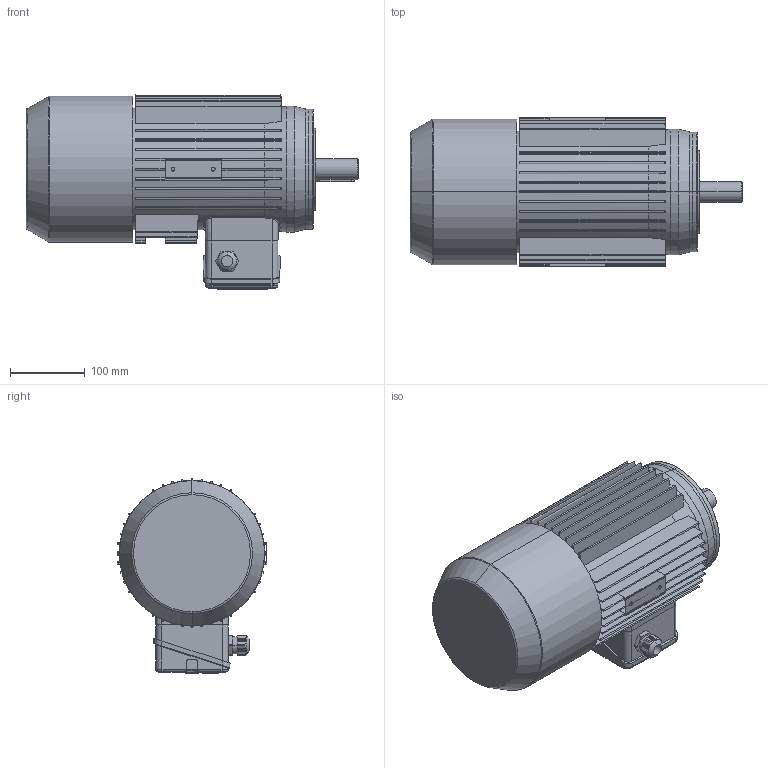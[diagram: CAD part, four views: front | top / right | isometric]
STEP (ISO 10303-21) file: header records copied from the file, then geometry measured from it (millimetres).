
FILE_DESCRIPTION (( 'STEP AP214' ), '1' );
FILE_NAME ('MAP100L6A IM3641 FT130.STEP', '2021-03-05T12:27:13', ( '' ), ( '' ), 'SwSTEP 2.0', 'SolidWorks 2018', '' );
FILE_SCHEMA (( 'AUTOMOTIVE_DESIGN' ));
Length unit declared in the file: millimetre
Products named in the file (1): MAP100L6A IM3641 FT130
Bounding box: 444 x 200 x 260 mm (x, y, z)
Volume: 10199827.4 mm3; surface area: 562166.6 mm2
Topology: 2 solids, 8 shells, 1108 faces, 2884 edges, 1826 vertices
Faces by surface type: plane 616, cylinder 243, bspline 133, cone 60, torus 54, sphere 2
Entity records: 42017 total; most frequent: CARTESIAN_POINT 16160, ORIENTED_EDGE 5740, DIRECTION 4897, EDGE_CURVE 2870, VERTEX_POINT 1826, AXIS2_PLACEMENT_3D 1656, LINE 1585, VECTOR 1585
